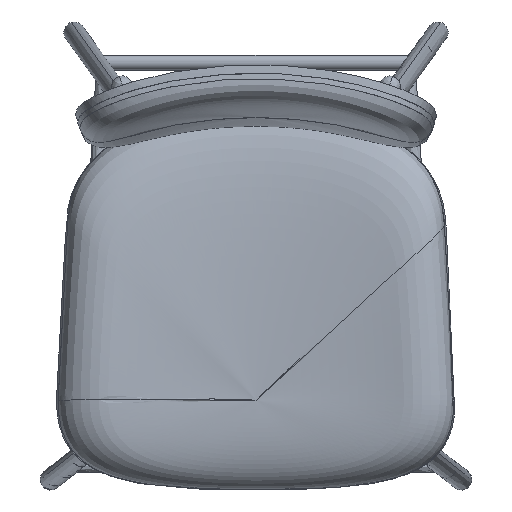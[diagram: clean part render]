
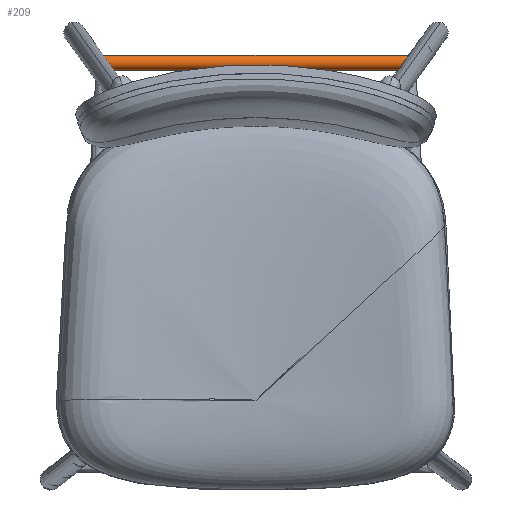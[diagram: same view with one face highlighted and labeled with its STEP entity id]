
A CAD part, top view. The second image highlights one B-rep face of the part: STEP entity #209.
In plain terms, the highlighted free-form (B-spline) face has degree [2, 1] with [5, 2] control points.
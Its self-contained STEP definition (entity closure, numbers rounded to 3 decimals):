
#209=ADVANCED_FACE('',(#318),#1836,.T.);
#318=FACE_OUTER_BOUND('',#451,.T.);
#451=EDGE_LOOP('',(#971,#972,#973,#974));
#971=ORIENTED_EDGE('',*,*,#1266,.T.);
#972=ORIENTED_EDGE('',*,*,#1265,.F.);
#973=ORIENTED_EDGE('',*,*,#1264,.F.);
#974=ORIENTED_EDGE('',*,*,#1263,.T.);
#1263=EDGE_CURVE('',#1743,#1745,#1411,.T.);
#1264=EDGE_CURVE('',#1743,#1744,#1412,.T.);
#1265=EDGE_CURVE('',#1744,#1746,#1413,.T.);
#1266=EDGE_CURVE('',#1745,#1746,#1414,.T.);
#1411=(
BOUNDED_CURVE()
B_SPLINE_CURVE(2,(#22330,#22331,#22332,#22333,#22334),.UNSPECIFIED.,.F.,
 .F.)
B_SPLINE_CURVE_WITH_KNOTS((3,2,3),(0.,12.488,24.976),
 .UNSPECIFIED.)
CURVE()
GEOMETRIC_REPRESENTATION_ITEM()
RATIONAL_B_SPLINE_CURVE((1.,0.707,1.,0.707,1.))
REPRESENTATION_ITEM('')
);
#1412=(
BOUNDED_CURVE()
B_SPLINE_CURVE(1,(#22335,#22336),.UNSPECIFIED.,.F.,.F.)
B_SPLINE_CURVE_WITH_KNOTS((2,2),(0.,337.374),.UNSPECIFIED.)
CURVE()
GEOMETRIC_REPRESENTATION_ITEM()
RATIONAL_B_SPLINE_CURVE((1.,1.))
REPRESENTATION_ITEM('')
);
#1413=(
BOUNDED_CURVE()
B_SPLINE_CURVE(2,(#22337,#22338,#22339,#22340,#22341),.UNSPECIFIED.,.F.,
 .F.)
B_SPLINE_CURVE_WITH_KNOTS((3,2,3),(0.,12.488,24.976),
 .UNSPECIFIED.)
CURVE()
GEOMETRIC_REPRESENTATION_ITEM()
RATIONAL_B_SPLINE_CURVE((1.,0.707,1.,0.707,1.))
REPRESENTATION_ITEM('')
);
#1414=(
BOUNDED_CURVE()
B_SPLINE_CURVE(1,(#22342,#22343),.UNSPECIFIED.,.F.,.F.)
B_SPLINE_CURVE_WITH_KNOTS((2,2),(0.,337.374),.UNSPECIFIED.)
CURVE()
GEOMETRIC_REPRESENTATION_ITEM()
RATIONAL_B_SPLINE_CURVE((1.,1.))
REPRESENTATION_ITEM('')
);
#1743=VERTEX_POINT('',#22326);
#1744=VERTEX_POINT('',#22327);
#1745=VERTEX_POINT('',#22328);
#1746=VERTEX_POINT('',#22329);
#1836=(
BOUNDED_SURFACE()
B_SPLINE_SURFACE(2,1,((#22304,#22305),(#22306,#22307),(#22308,#22309),(#22310,
#22311),(#22312,#22313)),.UNSPECIFIED.,.F.,.F.,.F.)
B_SPLINE_SURFACE_WITH_KNOTS((3,2,3),(2,2),(0.,12.488,24.976),
(0.,337.374),.UNSPECIFIED.)
GEOMETRIC_REPRESENTATION_ITEM()
RATIONAL_B_SPLINE_SURFACE(((1.,1.),(0.707,0.707),
(1.,1.),(0.707,0.707),(1.,1.)))
REPRESENTATION_ITEM('')
SURFACE()
);
#22304=CARTESIAN_POINT('',(-168.687,258.366,347.5));
#22305=CARTESIAN_POINT('',(168.687,258.366,347.5));
#22306=CARTESIAN_POINT('',(-168.687,258.366,355.45));
#22307=CARTESIAN_POINT('',(168.687,258.366,355.45));
#22308=CARTESIAN_POINT('',(-168.687,250.416,355.45));
#22309=CARTESIAN_POINT('',(168.687,250.416,355.45));
#22310=CARTESIAN_POINT('',(-168.687,242.466,355.45));
#22311=CARTESIAN_POINT('',(168.687,242.466,355.45));
#22312=CARTESIAN_POINT('',(-168.687,242.466,347.5));
#22313=CARTESIAN_POINT('',(168.687,242.466,347.5));
#22326=CARTESIAN_POINT('',(-168.687,258.366,347.5));
#22327=CARTESIAN_POINT('',(168.687,258.366,347.5));
#22328=CARTESIAN_POINT('',(-168.687,242.466,347.5));
#22329=CARTESIAN_POINT('',(168.687,242.466,347.5));
#22330=CARTESIAN_POINT('',(-168.687,258.366,347.5));
#22331=CARTESIAN_POINT('',(-168.687,258.366,355.45));
#22332=CARTESIAN_POINT('',(-168.687,250.416,355.45));
#22333=CARTESIAN_POINT('',(-168.687,242.466,355.45));
#22334=CARTESIAN_POINT('',(-168.687,242.466,347.5));
#22335=CARTESIAN_POINT('',(-168.687,258.366,347.5));
#22336=CARTESIAN_POINT('',(168.687,258.366,347.5));
#22337=CARTESIAN_POINT('',(168.687,258.366,347.5));
#22338=CARTESIAN_POINT('',(168.687,258.366,355.45));
#22339=CARTESIAN_POINT('',(168.687,250.416,355.45));
#22340=CARTESIAN_POINT('',(168.687,242.466,355.45));
#22341=CARTESIAN_POINT('',(168.687,242.466,347.5));
#22342=CARTESIAN_POINT('',(-168.687,242.466,347.5));
#22343=CARTESIAN_POINT('',(168.687,242.466,347.5));
